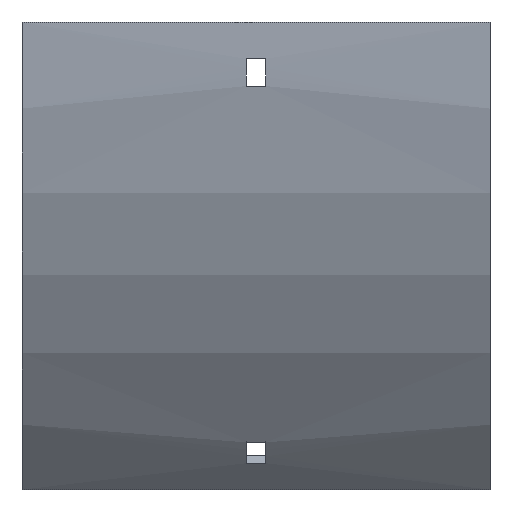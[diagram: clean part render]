
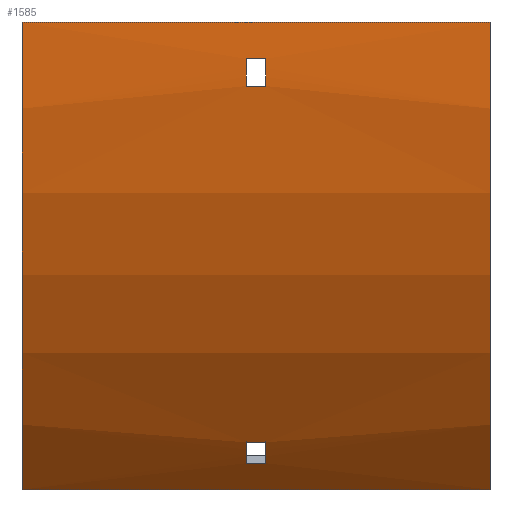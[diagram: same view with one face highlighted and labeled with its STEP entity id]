
A CAD part, front view. The second image highlights one B-rep face of the part: STEP entity #1585.
In plain terms, the highlighted cylindrical face has radius 217.5 mm (diameter 435 mm), a partial arc.
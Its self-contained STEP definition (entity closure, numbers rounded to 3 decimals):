
#9 = ORIENTED_EDGE ( 'NONE', *, *, #218, .T. ) ;
#22 = VERTEX_POINT ( 'NONE', #1640 ) ;
#25 = VECTOR ( 'NONE', #1657, 1000. ) ;
#46 = DIRECTION ( 'NONE',  ( 1., 0., 0. ) ) ;
#54 = VECTOR ( 'NONE', #1648, 1000. ) ;
#68 = EDGE_LOOP ( 'NONE', ( #9, #1010, #1684, #1246 ) ) ;
#70 = EDGE_CURVE ( 'NONE', #22, #1135, #1629, .T. ) ;
#92 = LINE ( 'NONE', #1138, #25 ) ;
#108 = DIRECTION ( 'NONE',  ( 1., 0., 0. ) ) ;
#142 = DIRECTION ( 'NONE',  ( 0., 0., 1. ) ) ;
#162 = DIRECTION ( 'NONE',  ( 1., 0., 0. ) ) ;
#171 = CARTESIAN_POINT ( 'NONE',  ( -3.25, -117.169, -12. ) ) ;
#218 = EDGE_CURVE ( 'NONE', #649, #1449, #846, .T. ) ;
#231 = DIRECTION ( 'NONE',  ( -1., 0., 0. ) ) ;
#243 = AXIS2_PLACEMENT_3D ( 'NONE', #699, #46, #1215 ) ;
#249 = ORIENTED_EDGE ( 'NONE', *, *, #1338, .T. ) ;
#257 = DIRECTION ( 'NONE',  ( -1., 0., 0. ) ) ;
#261 = ORIENTED_EDGE ( 'NONE', *, *, #296, .F. ) ;
#281 = ORIENTED_EDGE ( 'NONE', *, *, #1164, .T. ) ;
#285 = CARTESIAN_POINT ( 'NONE',  ( 77., -117.169, -12. ) ) ;
#289 = ORIENTED_EDGE ( 'NONE', *, *, #1321, .F. ) ;
#295 = VERTEX_POINT ( 'NONE', #653 ) ;
#296 = EDGE_CURVE ( 'NONE', #295, #546, #1038, .T. ) ;
#302 = CARTESIAN_POINT ( 'NONE',  ( -3.25, -67.926, -138.228 ) ) ;
#337 = CARTESIAN_POINT ( 'NONE',  ( -3.25, 100., 0. ) ) ;
#340 = VECTOR ( 'NONE', #541, 1000. ) ;
#353 = DIRECTION ( 'NONE',  ( 0., 0., 1. ) ) ;
#385 = CARTESIAN_POINT ( 'NONE',  ( -77., -53.796, -153.796 ) ) ;
#386 = CIRCLE ( 'NONE', #1366, 217.5 ) ;
#393 = DIRECTION ( 'NONE',  ( 1., 0., 0. ) ) ;
#396 = VERTEX_POINT ( 'NONE', #594 ) ;
#411 = LINE ( 'NONE', #1424, #543 ) ;
#423 = VERTEX_POINT ( 'NONE', #732 ) ;
#435 = CIRCLE ( 'NONE', #657, 217.5 ) ;
#444 = CYLINDRICAL_SURFACE ( 'NONE', #631, 217.5 ) ;
#458 = EDGE_CURVE ( 'NONE', #508, #1089, #662, .T. ) ;
#508 = VERTEX_POINT ( 'NONE', #630 ) ;
#520 = CARTESIAN_POINT ( 'NONE',  ( -77., 100., 0. ) ) ;
#541 = DIRECTION ( 'NONE',  ( -1., 0., 0. ) ) ;
#543 = VECTOR ( 'NONE', #257, 1000. ) ;
#546 = VERTEX_POINT ( 'NONE', #1125 ) ;
#572 = CARTESIAN_POINT ( 'NONE',  ( 77., 100., 0. ) ) ;
#575 = EDGE_CURVE ( 'NONE', #546, #22, #1355, .T. ) ;
#594 = CARTESIAN_POINT ( 'NONE',  ( 77., -53.796, -153.796 ) ) ;
#611 = EDGE_CURVE ( 'NONE', #628, #649, #1573, .T. ) ;
#628 = VERTEX_POINT ( 'NONE', #1435 ) ;
#630 = CARTESIAN_POINT ( 'NONE',  ( -3.25, -116.484, -21. ) ) ;
#631 = AXIS2_PLACEMENT_3D ( 'NONE', #954, #962, #694 ) ;
#642 = DIRECTION ( 'NONE',  ( -1., 0., 0. ) ) ;
#649 = VERTEX_POINT ( 'NONE', #1059 ) ;
#653 = CARTESIAN_POINT ( 'NONE',  ( -3.25, -62.047, -145.076 ) ) ;
#657 = AXIS2_PLACEMENT_3D ( 'NONE', #572, #1368, #1604 ) ;
#662 = CIRCLE ( 'NONE', #1052, 217.5 ) ;
#694 = DIRECTION ( 'NONE',  ( 0., 0., 1. ) ) ;
#699 = CARTESIAN_POINT ( 'NONE',  ( 3.25, 100., 0. ) ) ;
#711 = CIRCLE ( 'NONE', #243, 217.5 ) ;
#721 = LINE ( 'NONE', #285, #1227 ) ;
#732 = CARTESIAN_POINT ( 'NONE',  ( 3.25, -117.169, -12. ) ) ;
#746 = EDGE_LOOP ( 'NONE', ( #289, #1220, #1319, #261 ) ) ;
#753 = ORIENTED_EDGE ( 'NONE', *, *, #1521, .T. ) ;
#794 = CARTESIAN_POINT ( 'NONE',  ( 77., -117.5, 0. ) ) ;
#812 = FACE_OUTER_BOUND ( 'NONE', #68, .T. ) ;
#816 = VERTEX_POINT ( 'NONE', #1131 ) ;
#846 = CIRCLE ( 'NONE', #1429, 217.5 ) ;
#856 = DIRECTION ( 'NONE',  ( 1., 0., 0. ) ) ;
#871 = EDGE_LOOP ( 'NONE', ( #249, #1228, #281, #753 ) ) ;
#954 = CARTESIAN_POINT ( 'NONE',  ( 77., 100., 0. ) ) ;
#962 = DIRECTION ( 'NONE',  ( -1., 0., 0. ) ) ;
#970 = AXIS2_PLACEMENT_3D ( 'NONE', #1408, #231, #142 ) ;
#1001 = EDGE_CURVE ( 'NONE', #396, #1449, #411, .T. ) ;
#1010 = ORIENTED_EDGE ( 'NONE', *, *, #1001, .F. ) ;
#1038 = LINE ( 'NONE', #1560, #1094 ) ;
#1052 = AXIS2_PLACEMENT_3D ( 'NONE', #1265, #642, #353 ) ;
#1059 = CARTESIAN_POINT ( 'NONE',  ( -77., -117.5, 0. ) ) ;
#1089 = VERTEX_POINT ( 'NONE', #171 ) ;
#1094 = VECTOR ( 'NONE', #393, 1000. ) ;
#1104 = EDGE_CURVE ( 'NONE', #628, #396, #435, .T. ) ;
#1125 = CARTESIAN_POINT ( 'NONE',  ( 3.25, -62.047, -145.076 ) ) ;
#1131 = CARTESIAN_POINT ( 'NONE',  ( 3.25, -116.484, -21. ) ) ;
#1135 = VERTEX_POINT ( 'NONE', #302 ) ;
#1138 = CARTESIAN_POINT ( 'NONE',  ( 77., -116.484, -21. ) ) ;
#1164 = EDGE_CURVE ( 'NONE', #1089, #423, #721, .T. ) ;
#1215 = DIRECTION ( 'NONE',  ( 0., 0., -1. ) ) ;
#1220 = ORIENTED_EDGE ( 'NONE', *, *, #70, .F. ) ;
#1224 = FACE_BOUND ( 'NONE', #746, .T. ) ;
#1227 = VECTOR ( 'NONE', #162, 1000. ) ;
#1228 = ORIENTED_EDGE ( 'NONE', *, *, #458, .T. ) ;
#1246 = ORIENTED_EDGE ( 'NONE', *, *, #611, .T. ) ;
#1265 = CARTESIAN_POINT ( 'NONE',  ( -3.25, 100., 0. ) ) ;
#1319 = ORIENTED_EDGE ( 'NONE', *, *, #575, .F. ) ;
#1321 = EDGE_CURVE ( 'NONE', #1135, #295, #386, .T. ) ;
#1338 = EDGE_CURVE ( 'NONE', #816, #508, #92, .T. ) ;
#1341 = FACE_BOUND ( 'NONE', #871, .T. ) ;
#1355 = CIRCLE ( 'NONE', #970, 217.5 ) ;
#1366 = AXIS2_PLACEMENT_3D ( 'NONE', #337, #856, #1387 ) ;
#1368 = DIRECTION ( 'NONE',  ( 1., 0., 0. ) ) ;
#1387 = DIRECTION ( 'NONE',  ( 0., 0., -1. ) ) ;
#1408 = CARTESIAN_POINT ( 'NONE',  ( 3.25, 100., 0. ) ) ;
#1424 = CARTESIAN_POINT ( 'NONE',  ( 77., -53.796, -153.796 ) ) ;
#1429 = AXIS2_PLACEMENT_3D ( 'NONE', #520, #108, #1550 ) ;
#1435 = CARTESIAN_POINT ( 'NONE',  ( 77., -117.5, 0. ) ) ;
#1449 = VERTEX_POINT ( 'NONE', #385 ) ;
#1521 = EDGE_CURVE ( 'NONE', #423, #816, #711, .T. ) ;
#1550 = DIRECTION ( 'NONE',  ( 0., 0., -1. ) ) ;
#1560 = CARTESIAN_POINT ( 'NONE',  ( 77., -62.047, -145.076 ) ) ;
#1573 = LINE ( 'NONE', #794, #340 ) ;
#1585 = ADVANCED_FACE ( 'NONE', ( #812, #1341, #1224 ), #444, .T. ) ;
#1604 = DIRECTION ( 'NONE',  ( 0., 0., -1. ) ) ;
#1629 = LINE ( 'NONE', #1666, #54 ) ;
#1640 = CARTESIAN_POINT ( 'NONE',  ( 3.25, -67.926, -138.228 ) ) ;
#1648 = DIRECTION ( 'NONE',  ( -1., 0., 0. ) ) ;
#1657 = DIRECTION ( 'NONE',  ( -1., 0., 0. ) ) ;
#1666 = CARTESIAN_POINT ( 'NONE',  ( 77., -67.926, -138.228 ) ) ;
#1684 = ORIENTED_EDGE ( 'NONE', *, *, #1104, .F. ) ;
